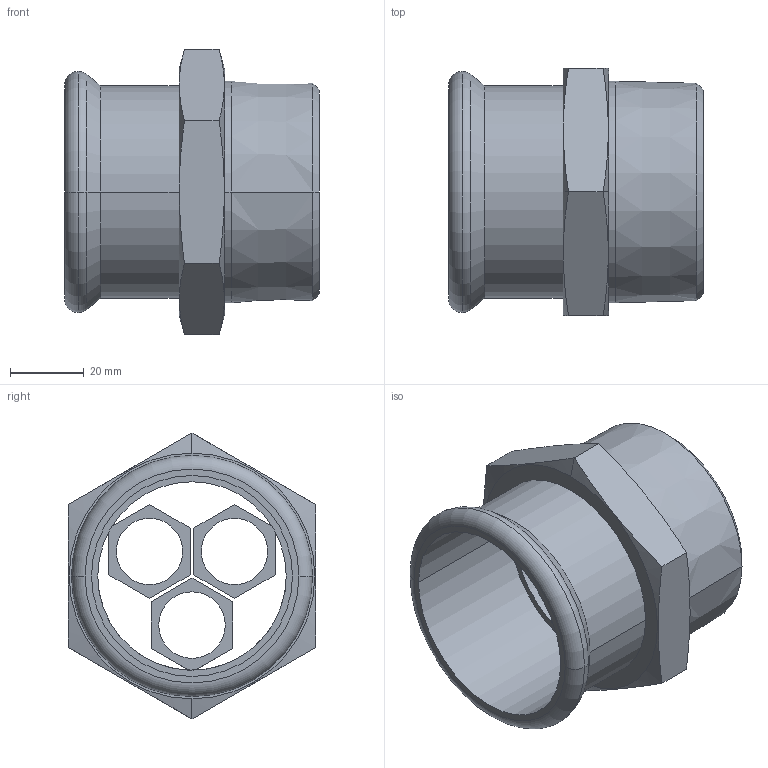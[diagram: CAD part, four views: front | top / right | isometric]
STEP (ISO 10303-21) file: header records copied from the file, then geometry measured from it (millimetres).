
FILE_DESCRIPTION(('OneSpaceDesigner STEP Export'),'2;1');
FILE_NAME('R2705 54xR2.stp','2010-06-09T11:26:37',(''),(''),'OneSpace Designer STEP processor for AP214 (Solid Model)','OneSpace Modeling 15.00A 14-Mar-2007 (C) CoCreate Software GmbH','');
FILE_SCHEMA(('AUTOMOTIVE_DESIGN { 1 0 10303 214 1 1 1 1 }'));
Length unit declared in the file: millimetre
Products named in the file (2): R2705_54xR2
Assembly tree (1 placements, depth 2):
  R2705_54xR2
    R2705_54xR2
Bounding box: 69 x 67 x 77.36 mm (x, y, z)
Volume: 51172.5 mm3; surface area: 30571.6 mm2
Topology: 1 solids, 1 shells, 73 faces, 178 edges, 115 vertices
Faces by surface type: plane 40, cylinder 19, cone 10, torus 4
Entity records: 2833 total; most frequent: CARTESIAN_POINT 1215, ORIENTED_EDGE 356, DIRECTION 275, EDGE_CURVE 178, VERTEX_POINT 115, VECTOR 101, LINE 101, EDGE_LOOP 89
